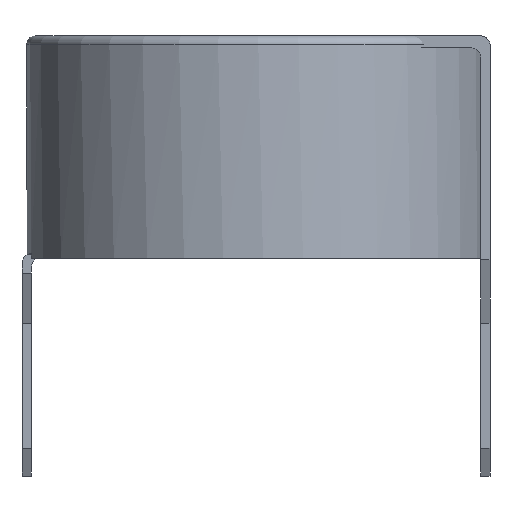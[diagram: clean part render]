
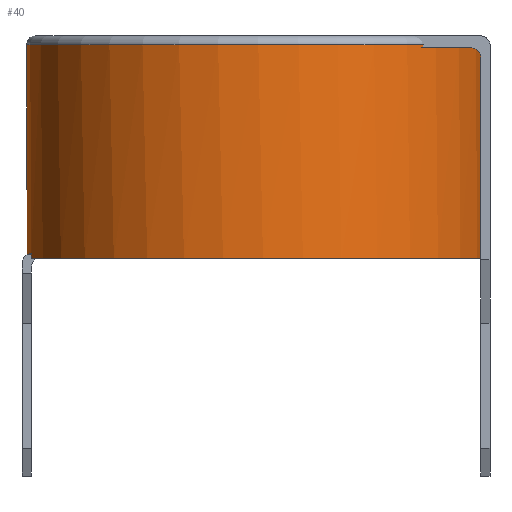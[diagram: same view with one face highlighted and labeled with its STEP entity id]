
A CAD part, left-side view. The second image highlights one B-rep face of the part: STEP entity #40.
In plain terms, the highlighted cylindrical face has radius 5 mm (diameter 10 mm), a full revolution.
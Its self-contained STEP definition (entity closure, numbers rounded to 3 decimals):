
#40 = ADVANCED_FACE('',(#41),#54,.T.);
#41 = FACE_BOUND('',#42,.F.);
#42 = EDGE_LOOP('',(#43,#77,#100,#129,#157,#190,#218,#240));
#43 = ORIENTED_EDGE('',*,*,#44,.T.);
#44 = EDGE_CURVE('',#45,#45,#47,.T.);
#45 = VERTEX_POINT('',#46);
#46 = CARTESIAN_POINT('',(5.,0.,5.81));
#47 = SURFACE_CURVE('',#48,(#53,#65),.PCURVE_S1.);
#48 = CIRCLE('',#49,5.);
#49 = AXIS2_PLACEMENT_3D('',#50,#51,#52);
#50 = CARTESIAN_POINT('',(0.,0.,5.81));
#51 = DIRECTION('',(0.,0.,1.));
#52 = DIRECTION('',(1.,0.,0.));
#53 = PCURVE('',#54,#59);
#54 = CYLINDRICAL_SURFACE('',#55,5.);
#55 = AXIS2_PLACEMENT_3D('',#56,#57,#58);
#56 = CARTESIAN_POINT('',(0.,0.,1.2));
#57 = DIRECTION('',(-0.,-0.,-1.));
#58 = DIRECTION('',(1.,0.,0.));
#59 = DEFINITIONAL_REPRESENTATION('',(#60),#64);
#60 = LINE('',#61,#62);
#61 = CARTESIAN_POINT('',(-0.,-4.61));
#62 = VECTOR('',#63,1.);
#63 = DIRECTION('',(-1.,0.));
#64 = ( GEOMETRIC_REPRESENTATION_CONTEXT(2) 
PARAMETRIC_REPRESENTATION_CONTEXT() REPRESENTATION_CONTEXT('2D SPACE',''
  ) );
#65 = PCURVE('',#66,#71);
#66 = TOROIDAL_SURFACE('',#67,4.81,0.19);
#67 = AXIS2_PLACEMENT_3D('',#68,#69,#70);
#68 = CARTESIAN_POINT('',(0.,0.,5.81));
#69 = DIRECTION('',(0.,0.,1.));
#70 = DIRECTION('',(1.,0.,0.));
#71 = DEFINITIONAL_REPRESENTATION('',(#72),#76);
#72 = LINE('',#73,#74);
#73 = CARTESIAN_POINT('',(0.,0.));
#74 = VECTOR('',#75,1.);
#75 = DIRECTION('',(1.,0.));
#76 = ( GEOMETRIC_REPRESENTATION_CONTEXT(2) 
PARAMETRIC_REPRESENTATION_CONTEXT() REPRESENTATION_CONTEXT('2D SPACE',''
  ) );
#77 = ORIENTED_EDGE('',*,*,#78,.F.);
#78 = EDGE_CURVE('',#79,#45,#81,.T.);
#79 = VERTEX_POINT('',#80);
#80 = CARTESIAN_POINT('',(5.,0.,1.2));
#81 = SEAM_CURVE('',#82,(#86,#93),.PCURVE_S1.);
#82 = LINE('',#83,#84);
#83 = CARTESIAN_POINT('',(5.,0.,1.2));
#84 = VECTOR('',#85,1.);
#85 = DIRECTION('',(0.,0.,1.));
#86 = PCURVE('',#54,#87);
#87 = DEFINITIONAL_REPRESENTATION('',(#88),#92);
#88 = LINE('',#89,#90);
#89 = CARTESIAN_POINT('',(-0.,0.));
#90 = VECTOR('',#91,1.);
#91 = DIRECTION('',(-0.,-1.));
#92 = ( GEOMETRIC_REPRESENTATION_CONTEXT(2) 
PARAMETRIC_REPRESENTATION_CONTEXT() REPRESENTATION_CONTEXT('2D SPACE',''
  ) );
#93 = PCURVE('',#54,#94);
#94 = DEFINITIONAL_REPRESENTATION('',(#95),#99);
#95 = LINE('',#96,#97);
#96 = CARTESIAN_POINT('',(-6.283,0.));
#97 = VECTOR('',#98,1.);
#98 = DIRECTION('',(-0.,-1.));
#99 = ( GEOMETRIC_REPRESENTATION_CONTEXT(2) 
PARAMETRIC_REPRESENTATION_CONTEXT() REPRESENTATION_CONTEXT('2D SPACE',''
  ) );
#100 = ORIENTED_EDGE('',*,*,#101,.F.);
#101 = EDGE_CURVE('',#102,#79,#104,.T.);
#102 = VERTEX_POINT('',#103);
#103 = CARTESIAN_POINT('',(-1.01,4.897,1.2));
#104 = SURFACE_CURVE('',#105,(#110,#117),.PCURVE_S1.);
#105 = CIRCLE('',#106,5.);
#106 = AXIS2_PLACEMENT_3D('',#107,#108,#109);
#107 = CARTESIAN_POINT('',(0.,0.,1.2));
#108 = DIRECTION('',(0.,0.,1.));
#109 = DIRECTION('',(1.,0.,0.));
#110 = PCURVE('',#54,#111);
#111 = DEFINITIONAL_REPRESENTATION('',(#112),#116);
#112 = LINE('',#113,#114);
#113 = CARTESIAN_POINT('',(-0.,0.));
#114 = VECTOR('',#115,1.);
#115 = DIRECTION('',(-1.,0.));
#116 = ( GEOMETRIC_REPRESENTATION_CONTEXT(2) 
PARAMETRIC_REPRESENTATION_CONTEXT() REPRESENTATION_CONTEXT('2D SPACE',''
  ) );
#117 = PCURVE('',#118,#123);
#118 = PLANE('',#119);
#119 = AXIS2_PLACEMENT_3D('',#120,#121,#122);
#120 = CARTESIAN_POINT('',(0.,0.,1.2));
#121 = DIRECTION('',(0.,0.,1.));
#122 = DIRECTION('',(1.,0.,0.));
#123 = DEFINITIONAL_REPRESENTATION('',(#124),#128);
#124 = CIRCLE('',#125,5.);
#125 = AXIS2_PLACEMENT_2D('',#126,#127);
#126 = CARTESIAN_POINT('',(0.,0.));
#127 = DIRECTION('',(1.,0.));
#128 = ( GEOMETRIC_REPRESENTATION_CONTEXT(2) 
PARAMETRIC_REPRESENTATION_CONTEXT() REPRESENTATION_CONTEXT('2D SPACE',''
  ) );
#129 = ORIENTED_EDGE('',*,*,#130,.F.);
#130 = EDGE_CURVE('',#131,#102,#133,.T.);
#131 = VERTEX_POINT('',#132);
#132 = CARTESIAN_POINT('',(-1.01,4.897,1.3));
#133 = SURFACE_CURVE('',#134,(#138,#145),.PCURVE_S1.);
#134 = LINE('',#135,#136);
#135 = CARTESIAN_POINT('',(-1.01,4.897,1.2));
#136 = VECTOR('',#137,1.);
#137 = DIRECTION('',(-0.,-0.,-1.));
#138 = PCURVE('',#54,#139);
#139 = DEFINITIONAL_REPRESENTATION('',(#140),#144);
#140 = LINE('',#141,#142);
#141 = CARTESIAN_POINT('',(-1.774,0.));
#142 = VECTOR('',#143,1.);
#143 = DIRECTION('',(-0.,1.));
#144 = ( GEOMETRIC_REPRESENTATION_CONTEXT(2) 
PARAMETRIC_REPRESENTATION_CONTEXT() REPRESENTATION_CONTEXT('2D SPACE',''
  ) );
#145 = PCURVE('',#146,#151);
#146 = PLANE('',#147);
#147 = AXIS2_PLACEMENT_3D('',#148,#149,#150);
#148 = CARTESIAN_POINT('',(-1.01,5.094,1.2));
#149 = DIRECTION('',(1.,0.,0.));
#150 = DIRECTION('',(0.,-1.,0.));
#151 = DEFINITIONAL_REPRESENTATION('',(#152),#156);
#152 = LINE('',#153,#154);
#153 = CARTESIAN_POINT('',(0.197,0.));
#154 = VECTOR('',#155,1.);
#155 = DIRECTION('',(0.,1.));
#156 = ( GEOMETRIC_REPRESENTATION_CONTEXT(2) 
PARAMETRIC_REPRESENTATION_CONTEXT() REPRESENTATION_CONTEXT('2D SPACE',''
  ) );
#157 = ORIENTED_EDGE('',*,*,#158,.T.);
#158 = EDGE_CURVE('',#131,#159,#161,.T.);
#159 = VERTEX_POINT('',#160);
#160 = CARTESIAN_POINT('',(1.008,4.897,1.3));
#161 = SURFACE_CURVE('',#162,(#167,#174),.PCURVE_S1.);
#162 = CIRCLE('',#163,5.);
#163 = AXIS2_PLACEMENT_3D('',#164,#165,#166);
#164 = CARTESIAN_POINT('',(0.,0.,1.3));
#165 = DIRECTION('',(0.,0.,-1.));
#166 = DIRECTION('',(1.,0.,0.));
#167 = PCURVE('',#54,#168);
#168 = DEFINITIONAL_REPRESENTATION('',(#169),#173);
#169 = LINE('',#170,#171);
#170 = CARTESIAN_POINT('',(-6.283,-0.1));
#171 = VECTOR('',#172,1.);
#172 = DIRECTION('',(1.,-0.));
#173 = ( GEOMETRIC_REPRESENTATION_CONTEXT(2) 
PARAMETRIC_REPRESENTATION_CONTEXT() REPRESENTATION_CONTEXT('2D SPACE',''
  ) );
#174 = PCURVE('',#175,#180);
#175 = PLANE('',#176);
#176 = AXIS2_PLACEMENT_3D('',#177,#178,#179);
#177 = CARTESIAN_POINT('',(-0.001,4.639,1.3));
#178 = DIRECTION('',(0.,0.,1.));
#179 = DIRECTION('',(1.,0.,0.));
#180 = DEFINITIONAL_REPRESENTATION('',(#181),#189);
#181 = ( BOUNDED_CURVE() B_SPLINE_CURVE(2,(#182,#183,#184,#185,#186,#187
,#188),.UNSPECIFIED.,.T.,.F.) B_SPLINE_CURVE_WITH_KNOTS((1,2,2,2,2,1),(
    -2.094,0.,2.094,4.189,6.283,
8.378),.UNSPECIFIED.) CURVE() GEOMETRIC_REPRESENTATION_ITEM() 
RATIONAL_B_SPLINE_CURVE((1.,0.5,1.,0.5,1.,0.5,1.)) REPRESENTATION_ITEM(
  '') );
#182 = CARTESIAN_POINT('',(5.001,-4.639));
#183 = CARTESIAN_POINT('',(5.001,-13.299));
#184 = CARTESIAN_POINT('',(-2.499,-8.969));
#185 = CARTESIAN_POINT('',(-9.999,-4.639));
#186 = CARTESIAN_POINT('',(-2.499,-0.309));
#187 = CARTESIAN_POINT('',(5.001,4.022));
#188 = CARTESIAN_POINT('',(5.001,-4.639));
#189 = ( GEOMETRIC_REPRESENTATION_CONTEXT(2) 
PARAMETRIC_REPRESENTATION_CONTEXT() REPRESENTATION_CONTEXT('2D SPACE',''
  ) );
#190 = ORIENTED_EDGE('',*,*,#191,.T.);
#191 = EDGE_CURVE('',#159,#192,#194,.T.);
#192 = VERTEX_POINT('',#193);
#193 = CARTESIAN_POINT('',(1.008,4.897,1.2));
#194 = SURFACE_CURVE('',#195,(#199,#206),.PCURVE_S1.);
#195 = LINE('',#196,#197);
#196 = CARTESIAN_POINT('',(1.008,4.897,1.2));
#197 = VECTOR('',#198,1.);
#198 = DIRECTION('',(-0.,-0.,-1.));
#199 = PCURVE('',#54,#200);
#200 = DEFINITIONAL_REPRESENTATION('',(#201),#205);
#201 = LINE('',#202,#203);
#202 = CARTESIAN_POINT('',(-1.368,0.));
#203 = VECTOR('',#204,1.);
#204 = DIRECTION('',(-0.,1.));
#205 = ( GEOMETRIC_REPRESENTATION_CONTEXT(2) 
PARAMETRIC_REPRESENTATION_CONTEXT() REPRESENTATION_CONTEXT('2D SPACE',''
  ) );
#206 = PCURVE('',#207,#212);
#207 = PLANE('',#208);
#208 = AXIS2_PLACEMENT_3D('',#209,#210,#211);
#209 = CARTESIAN_POINT('',(1.008,4.184,1.2));
#210 = DIRECTION('',(-1.,0.,0.));
#211 = DIRECTION('',(0.,1.,0.));
#212 = DEFINITIONAL_REPRESENTATION('',(#213),#217);
#213 = LINE('',#214,#215);
#214 = CARTESIAN_POINT('',(0.714,0.));
#215 = VECTOR('',#216,1.);
#216 = DIRECTION('',(0.,1.));
#217 = ( GEOMETRIC_REPRESENTATION_CONTEXT(2) 
PARAMETRIC_REPRESENTATION_CONTEXT() REPRESENTATION_CONTEXT('2D SPACE',''
  ) );
#218 = ORIENTED_EDGE('',*,*,#219,.F.);
#219 = EDGE_CURVE('',#79,#192,#220,.T.);
#220 = SURFACE_CURVE('',#221,(#226,#233),.PCURVE_S1.);
#221 = CIRCLE('',#222,5.);
#222 = AXIS2_PLACEMENT_3D('',#223,#224,#225);
#223 = CARTESIAN_POINT('',(0.,0.,1.2));
#224 = DIRECTION('',(0.,0.,1.));
#225 = DIRECTION('',(1.,0.,0.));
#226 = PCURVE('',#54,#227);
#227 = DEFINITIONAL_REPRESENTATION('',(#228),#232);
#228 = LINE('',#229,#230);
#229 = CARTESIAN_POINT('',(-0.,0.));
#230 = VECTOR('',#231,1.);
#231 = DIRECTION('',(-1.,0.));
#232 = ( GEOMETRIC_REPRESENTATION_CONTEXT(2) 
PARAMETRIC_REPRESENTATION_CONTEXT() REPRESENTATION_CONTEXT('2D SPACE',''
  ) );
#233 = PCURVE('',#118,#234);
#234 = DEFINITIONAL_REPRESENTATION('',(#235),#239);
#235 = CIRCLE('',#236,5.);
#236 = AXIS2_PLACEMENT_2D('',#237,#238);
#237 = CARTESIAN_POINT('',(0.,0.));
#238 = DIRECTION('',(1.,0.));
#239 = ( GEOMETRIC_REPRESENTATION_CONTEXT(2) 
PARAMETRIC_REPRESENTATION_CONTEXT() REPRESENTATION_CONTEXT('2D SPACE',''
  ) );
#240 = ORIENTED_EDGE('',*,*,#78,.T.);
